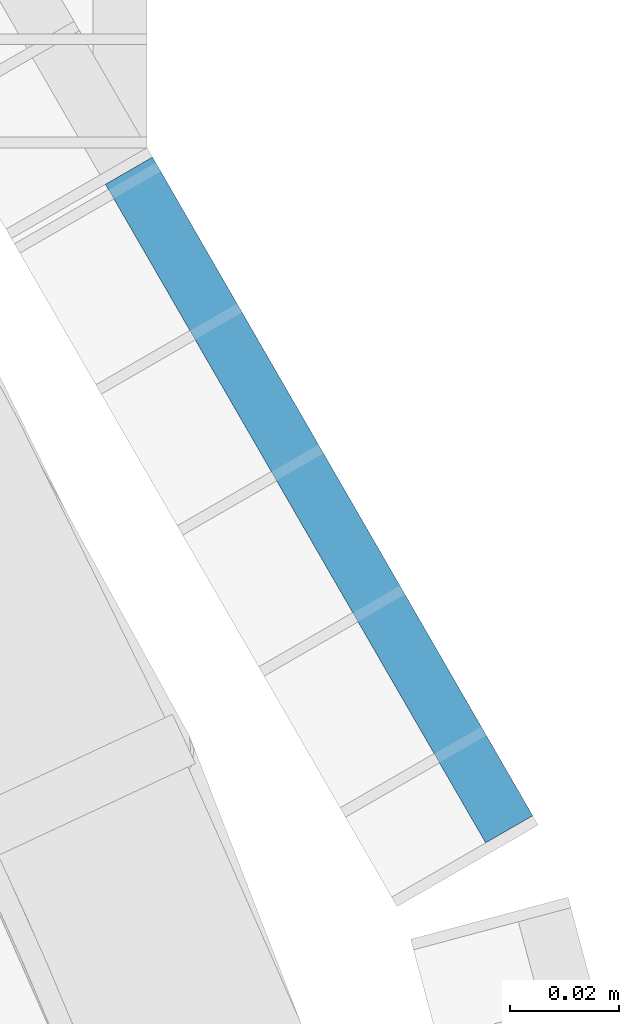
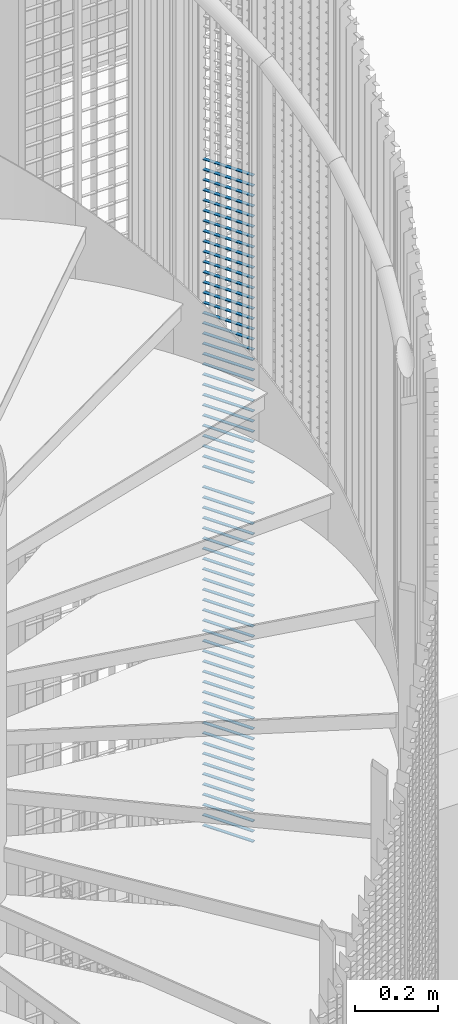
# One storey, part 263 of 1148: 65 beams, 1 element without a shape of its own.
"""IFC2X3 building model written with IfcOpenShell, lengths in millimetres."""

from ifc_helpers import new_model, si_unit, frame, origin_with_axes, origin_2d_with_axis, place, context, subcontext, project, spatial, rectangle, extrude, material, type_object, element, aggregate, save


model = new_model("IFC2X3")

# Units and contexts
model_context = context("Model", 3, precision=1e-05, world=origin_with_axes())
body_context = subcontext(model_context, "Body", "Model", "MODEL_VIEW")
ifc_project = project(units=[si_unit("LENGTHUNIT", "METRE", prefix="MILLI"), si_unit("AREAUNIT", "SQUARE_METRE"), si_unit("VOLUMEUNIT", "CUBIC_METRE"), si_unit("MASSUNIT", "GRAM", prefix="KILO"), si_unit("TIMEUNIT", "SECOND"), si_unit("PLANEANGLEUNIT", "RADIAN"), si_unit("SOLIDANGLEUNIT", "STERADIAN"), si_unit("THERMODYNAMICTEMPERATUREUNIT", "DEGREE_CELSIUS"), si_unit("LUMINOUSINTENSITYUNIT", "LUMEN")], contexts=[model_context])

# Site, building, storey
site_placement = place(None, origin_with_axes())
site = spatial("IfcSite", under=ifc_project, at=site_placement, Name="Undefined", CompositionType="ELEMENT")
building_placement = place(site_placement, origin_with_axes())
building = spatial("IfcBuilding", under=site, at=building_placement, Name="Undefined", CompositionType="ELEMENT")
storey_placement = place(building_placement, origin_with_axes())
storey = spatial("IfcBuildingStorey", under=building, at=storey_placement, Name="Undefined", CompositionType="ELEMENT", Elevation=0.0)

# Assembly, beams
assembly_placement = place(storey_placement, origin_with_axes())
assembly = element("IfcElementAssembly", 1, at=assembly_placement, inside=storey, Name="BORDURE", AssemblyPlace="NOTDEFINED", PredefinedType="NOTDEFINED")
ifc_material = material(Name="STEEL/S235JR")
beam_type = type_object("IfcBeamType", Name="PL2*10", PredefinedType="NOTDEFINED")
beam_1_placement = place(assembly_placement, frame((1033.29994283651, 437.231999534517, 17040.0), z_axis=(0.866030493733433, 0.499991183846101, 0.0), x_axis=(-0.499991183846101, 0.866030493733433, 0.0)))
beam_1 = element("IfcBeam", 2, at=beam_1_placement, type_object=beam_type, material=ifc_material, Name="ENTRETOISE", context=body_context, shape_type="SweptSolid", body=[
    extrude(rectangle(XDim=2.0, YDim=10.0, at=origin_2d_with_axis()), frame((140.102470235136, 0.0, 0.0), z_axis=(-1.0, 0.0, 0.0), x_axis=(0.0, -1.0, 0.0)), (0.0, 0.0, 1.0), 140.1),
])
beam_2_placement = place(assembly_placement, frame((1033.29994283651, 437.231999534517, 17010.0), z_axis=(0.866030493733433, 0.499991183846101, 0.0), x_axis=(-0.499991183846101, 0.866030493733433, 0.0)))
beam_2 = element("IfcBeam", 3, at=beam_2_placement, type_object=beam_type, material=ifc_material, Name="ENTRETOISE", context=body_context, shape_type="SweptSolid", body=[
    extrude(rectangle(XDim=2.0, YDim=10.0, at=origin_2d_with_axis()), frame((140.102470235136, 0.0, 0.0), z_axis=(-1.0, 0.0, 0.0), x_axis=(0.0, -1.0, 0.0)), (0.0, 0.0, 1.0), 140.1),
])
beam_3_placement = place(assembly_placement, frame((1033.29994283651, 437.231999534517, 16980.0), z_axis=(0.866030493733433, 0.499991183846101, 0.0), x_axis=(-0.499991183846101, 0.866030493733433, 0.0)))
beam_3 = element("IfcBeam", 4, at=beam_3_placement, type_object=beam_type, material=ifc_material, Name="ENTRETOISE", context=body_context, shape_type="SweptSolid", body=[
    extrude(rectangle(XDim=2.0, YDim=10.0, at=origin_2d_with_axis()), frame((140.102470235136, 0.0, 0.0), z_axis=(-1.0, 0.0, 0.0), x_axis=(0.0, -1.0, 0.0)), (0.0, 0.0, 1.0), 140.1),
])
beam_4_placement = place(assembly_placement, frame((1033.29994283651, 437.231999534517, 16950.0), z_axis=(0.866030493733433, 0.499991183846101, 0.0), x_axis=(-0.499991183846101, 0.866030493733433, 0.0)))
beam_4 = element("IfcBeam", 5, at=beam_4_placement, type_object=beam_type, material=ifc_material, Name="ENTRETOISE", context=body_context, shape_type="SweptSolid", body=[
    extrude(rectangle(XDim=2.0, YDim=10.0, at=origin_2d_with_axis()), frame((140.102470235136, 0.0, 0.0), z_axis=(-1.0, 0.0, 0.0), x_axis=(0.0, -1.0, 0.0)), (0.0, 0.0, 1.0), 140.1),
])
beam_5_placement = place(assembly_placement, frame((1033.29994283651, 437.231999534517, 16920.0), z_axis=(0.866030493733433, 0.499991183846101, 0.0), x_axis=(-0.499991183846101, 0.866030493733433, 0.0)))
beam_5 = element("IfcBeam", 6, at=beam_5_placement, type_object=beam_type, material=ifc_material, Name="ENTRETOISE", context=body_context, shape_type="SweptSolid", body=[
    extrude(rectangle(XDim=2.0, YDim=10.0, at=origin_2d_with_axis()), frame((140.102470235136, 0.0, 0.0), z_axis=(-1.0, 0.0, 0.0), x_axis=(0.0, -1.0, 0.0)), (0.0, 0.0, 1.0), 140.1),
])
beam_6_placement = place(assembly_placement, frame((1033.29994283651, 437.231999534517, 16890.0), z_axis=(0.866030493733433, 0.499991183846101, 0.0), x_axis=(-0.499991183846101, 0.866030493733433, 0.0)))
beam_6 = element("IfcBeam", 7, at=beam_6_placement, type_object=beam_type, material=ifc_material, Name="ENTRETOISE", context=body_context, shape_type="SweptSolid", body=[
    extrude(rectangle(XDim=2.0, YDim=10.0, at=origin_2d_with_axis()), frame((140.102470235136, 0.0, 0.0), z_axis=(-1.0, 0.0, 0.0), x_axis=(0.0, -1.0, 0.0)), (0.0, 0.0, 1.0), 140.1),
])
beam_7_placement = place(assembly_placement, frame((1033.29994283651, 437.231999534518, 16860.0), z_axis=(0.866030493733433, 0.499991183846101, 0.0), x_axis=(-0.499991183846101, 0.866030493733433, 0.0)))
beam_7 = element("IfcBeam", 8, at=beam_7_placement, type_object=beam_type, material=ifc_material, Name="ENTRETOISE", context=body_context, shape_type="SweptSolid", body=[
    extrude(rectangle(XDim=2.0, YDim=10.0, at=origin_2d_with_axis()), frame((140.102470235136, 0.0, 0.0), z_axis=(-1.0, 0.0, 0.0), x_axis=(0.0, -1.0, 0.0)), (0.0, 0.0, 1.0), 140.1),
])
beam_8_placement = place(assembly_placement, frame((1033.29994283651, 437.231999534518, 16830.0), z_axis=(0.866030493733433, 0.499991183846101, 0.0), x_axis=(-0.499991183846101, 0.866030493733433, 0.0)))
beam_8 = element("IfcBeam", 9, at=beam_8_placement, type_object=beam_type, material=ifc_material, Name="ENTRETOISE", context=body_context, shape_type="SweptSolid", body=[
    extrude(rectangle(XDim=2.0, YDim=10.0, at=origin_2d_with_axis()), frame((140.102470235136, 0.0, 0.0), z_axis=(-1.0, 0.0, 0.0), x_axis=(0.0, -1.0, 0.0)), (0.0, 0.0, 1.0), 140.1),
])
beam_9_placement = place(assembly_placement, frame((1033.29994283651, 437.231999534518, 16800.0), z_axis=(0.866030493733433, 0.499991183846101, 0.0), x_axis=(-0.499991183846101, 0.866030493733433, 0.0)))
beam_9 = element("IfcBeam", 10, at=beam_9_placement, type_object=beam_type, material=ifc_material, Name="ENTRETOISE", context=body_context, shape_type="SweptSolid", body=[
    extrude(rectangle(XDim=2.0, YDim=10.0, at=origin_2d_with_axis()), frame((140.102470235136, 0.0, 0.0), z_axis=(-1.0, 0.0, 0.0), x_axis=(0.0, -1.0, 0.0)), (0.0, 0.0, 1.0), 140.1),
])
beam_10_placement = place(assembly_placement, frame((1033.29994283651, 437.231999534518, 16770.0), z_axis=(0.866030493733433, 0.499991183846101, 0.0), x_axis=(-0.499991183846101, 0.866030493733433, 0.0)))
beam_10 = element("IfcBeam", 11, at=beam_10_placement, type_object=beam_type, material=ifc_material, Name="ENTRETOISE", context=body_context, shape_type="SweptSolid", body=[
    extrude(rectangle(XDim=2.0, YDim=10.0, at=origin_2d_with_axis()), frame((140.102470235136, 0.0, 0.0), z_axis=(-1.0, 0.0, 0.0), x_axis=(0.0, -1.0, 0.0)), (0.0, 0.0, 1.0), 140.1),
])
beam_11_placement = place(assembly_placement, frame((1033.29994283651, 437.231999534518, 16740.0), z_axis=(0.866030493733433, 0.499991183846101, 0.0), x_axis=(-0.499991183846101, 0.866030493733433, 0.0)))
beam_11 = element("IfcBeam", 12, at=beam_11_placement, type_object=beam_type, material=ifc_material, Name="ENTRETOISE", context=body_context, shape_type="SweptSolid", body=[
    extrude(rectangle(XDim=2.0, YDim=10.0, at=origin_2d_with_axis()), frame((140.102470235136, 0.0, 0.0), z_axis=(-1.0, 0.0, 0.0), x_axis=(0.0, -1.0, 0.0)), (0.0, 0.0, 1.0), 140.1),
])
beam_12_placement = place(assembly_placement, frame((1033.29994283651, 437.231999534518, 16710.0), z_axis=(0.866030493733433, 0.499991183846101, 0.0), x_axis=(-0.499991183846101, 0.866030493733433, 0.0)))
beam_12 = element("IfcBeam", 13, at=beam_12_placement, type_object=beam_type, material=ifc_material, Name="ENTRETOISE", context=body_context, shape_type="SweptSolid", body=[
    extrude(rectangle(XDim=2.0, YDim=10.0, at=origin_2d_with_axis()), frame((140.102470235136, 0.0, 0.0), z_axis=(-1.0, 0.0, 0.0), x_axis=(0.0, -1.0, 0.0)), (0.0, 0.0, 1.0), 140.1),
])
beam_13_placement = place(assembly_placement, frame((1033.29994283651, 437.231999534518, 16680.0), z_axis=(0.866030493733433, 0.499991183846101, 0.0), x_axis=(-0.499991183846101, 0.866030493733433, 0.0)))
beam_13 = element("IfcBeam", 14, at=beam_13_placement, type_object=beam_type, material=ifc_material, Name="ENTRETOISE", context=body_context, shape_type="SweptSolid", body=[
    extrude(rectangle(XDim=2.0, YDim=10.0, at=origin_2d_with_axis()), frame((140.102470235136, 0.0, 0.0), z_axis=(-1.0, 0.0, 0.0), x_axis=(0.0, -1.0, 0.0)), (0.0, 0.0, 1.0), 140.1),
])
beam_14_placement = place(assembly_placement, frame((1033.29994283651, 437.231999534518, 16650.0), z_axis=(0.866030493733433, 0.499991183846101, 0.0), x_axis=(-0.499991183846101, 0.866030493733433, 0.0)))
beam_14 = element("IfcBeam", 15, at=beam_14_placement, type_object=beam_type, material=ifc_material, Name="ENTRETOISE", context=body_context, shape_type="SweptSolid", body=[
    extrude(rectangle(XDim=2.0, YDim=10.0, at=origin_2d_with_axis()), frame((140.102470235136, 0.0, 0.0), z_axis=(-1.0, 0.0, 0.0), x_axis=(0.0, -1.0, 0.0)), (0.0, 0.0, 1.0), 140.1),
])
beam_15_placement = place(assembly_placement, frame((1033.29994283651, 437.231999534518, 16620.0), z_axis=(0.866030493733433, 0.499991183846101, 0.0), x_axis=(-0.499991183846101, 0.866030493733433, 0.0)))
beam_15 = element("IfcBeam", 16, at=beam_15_placement, type_object=beam_type, material=ifc_material, Name="ENTRETOISE", context=body_context, shape_type="SweptSolid", body=[
    extrude(rectangle(XDim=2.0, YDim=10.0, at=origin_2d_with_axis()), frame((140.102470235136, 0.0, 0.0), z_axis=(-1.0, 0.0, 0.0), x_axis=(0.0, -1.0, 0.0)), (0.0, 0.0, 1.0), 140.1),
])
beam_16_placement = place(assembly_placement, frame((1033.29994283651, 437.231999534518, 16590.0), z_axis=(0.866030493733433, 0.499991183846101, 0.0), x_axis=(-0.499991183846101, 0.866030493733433, 0.0)))
beam_16 = element("IfcBeam", 17, at=beam_16_placement, type_object=beam_type, material=ifc_material, Name="ENTRETOISE", context=body_context, shape_type="SweptSolid", body=[
    extrude(rectangle(XDim=2.0, YDim=10.0, at=origin_2d_with_axis()), frame((140.102470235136, 0.0, 0.0), z_axis=(-1.0, 0.0, 0.0), x_axis=(0.0, -1.0, 0.0)), (0.0, 0.0, 1.0), 140.1),
])
beam_17_placement = place(assembly_placement, frame((1033.29994283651, 437.231999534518, 16560.0), z_axis=(0.866030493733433, 0.499991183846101, 0.0), x_axis=(-0.499991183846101, 0.866030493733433, 0.0)))
beam_17 = element("IfcBeam", 18, at=beam_17_placement, type_object=beam_type, material=ifc_material, Name="ENTRETOISE", context=body_context, shape_type="SweptSolid", body=[
    extrude(rectangle(XDim=2.0, YDim=10.0, at=origin_2d_with_axis()), frame((140.102470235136, 0.0, 0.0), z_axis=(-1.0, 0.0, 0.0), x_axis=(0.0, -1.0, 0.0)), (0.0, 0.0, 1.0), 140.1),
])
beam_18_placement = place(assembly_placement, frame((1033.29994283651, 437.231999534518, 16530.0), z_axis=(0.866030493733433, 0.499991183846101, 0.0), x_axis=(-0.499991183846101, 0.866030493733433, 0.0)))
beam_18 = element("IfcBeam", 19, at=beam_18_placement, type_object=beam_type, material=ifc_material, Name="ENTRETOISE", context=body_context, shape_type="SweptSolid", body=[
    extrude(rectangle(XDim=2.0, YDim=10.0, at=origin_2d_with_axis()), frame((140.102470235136, 0.0, 0.0), z_axis=(-1.0, 0.0, 0.0), x_axis=(0.0, -1.0, 0.0)), (0.0, 0.0, 1.0), 140.1),
])
beam_19_placement = place(assembly_placement, frame((1033.29994283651, 437.231999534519, 16500.0), z_axis=(0.866030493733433, 0.499991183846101, 0.0), x_axis=(-0.499991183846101, 0.866030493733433, 0.0)))
beam_19 = element("IfcBeam", 20, at=beam_19_placement, type_object=beam_type, material=ifc_material, Name="ENTRETOISE", context=body_context, shape_type="SweptSolid", body=[
    extrude(rectangle(XDim=2.0, YDim=10.0, at=origin_2d_with_axis()), frame((140.102470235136, 0.0, 0.0), z_axis=(-1.0, 0.0, 0.0), x_axis=(0.0, -1.0, 0.0)), (0.0, 0.0, 1.0), 140.1),
])
beam_20_placement = place(assembly_placement, frame((1033.29994283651, 437.231999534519, 16470.0), z_axis=(0.866030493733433, 0.499991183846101, 0.0), x_axis=(-0.499991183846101, 0.866030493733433, 0.0)))
beam_20 = element("IfcBeam", 21, at=beam_20_placement, type_object=beam_type, material=ifc_material, Name="ENTRETOISE", context=body_context, shape_type="SweptSolid", body=[
    extrude(rectangle(XDim=2.0, YDim=10.0, at=origin_2d_with_axis()), frame((140.102470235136, 0.0, 0.0), z_axis=(-1.0, 0.0, 0.0), x_axis=(0.0, -1.0, 0.0)), (0.0, 0.0, 1.0), 140.1),
])
beam_21_placement = place(assembly_placement, frame((1033.29994283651, 437.231999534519, 16440.0), z_axis=(0.866030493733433, 0.499991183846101, 0.0), x_axis=(-0.499991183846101, 0.866030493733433, 0.0)))
beam_21 = element("IfcBeam", 22, at=beam_21_placement, type_object=beam_type, material=ifc_material, Name="ENTRETOISE", context=body_context, shape_type="SweptSolid", body=[
    extrude(rectangle(XDim=2.0, YDim=10.0, at=origin_2d_with_axis()), frame((140.102470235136, 0.0, 0.0), z_axis=(-1.0, 0.0, 0.0), x_axis=(0.0, -1.0, 0.0)), (0.0, 0.0, 1.0), 140.1),
])
beam_22_placement = place(assembly_placement, frame((1033.29994283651, 437.231999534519, 16410.0), z_axis=(0.866030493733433, 0.499991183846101, 0.0), x_axis=(-0.499991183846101, 0.866030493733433, 0.0)))
beam_22 = element("IfcBeam", 23, at=beam_22_placement, type_object=beam_type, material=ifc_material, Name="ENTRETOISE", context=body_context, shape_type="SweptSolid", body=[
    extrude(rectangle(XDim=2.0, YDim=10.0, at=origin_2d_with_axis()), frame((140.102470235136, 0.0, 0.0), z_axis=(-1.0, 0.0, 0.0), x_axis=(0.0, -1.0, 0.0)), (0.0, 0.0, 1.0), 140.1),
])
beam_23_placement = place(assembly_placement, frame((1033.29994283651, 437.231999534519, 16380.0), z_axis=(0.866030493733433, 0.499991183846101, 0.0), x_axis=(-0.499991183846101, 0.866030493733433, 0.0)))
beam_23 = element("IfcBeam", 24, at=beam_23_placement, type_object=beam_type, material=ifc_material, Name="ENTRETOISE", context=body_context, shape_type="SweptSolid", body=[
    extrude(rectangle(XDim=2.0, YDim=10.0, at=origin_2d_with_axis()), frame((140.102470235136, 0.0, 0.0), z_axis=(-1.0, 0.0, 0.0), x_axis=(0.0, -1.0, 0.0)), (0.0, 0.0, 1.0), 140.1),
])
beam_24_placement = place(assembly_placement, frame((1033.29994283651, 437.231999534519, 16350.0), z_axis=(0.866030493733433, 0.499991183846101, 0.0), x_axis=(-0.499991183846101, 0.866030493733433, 0.0)))
beam_24 = element("IfcBeam", 25, at=beam_24_placement, type_object=beam_type, material=ifc_material, Name="ENTRETOISE", context=body_context, shape_type="SweptSolid", body=[
    extrude(rectangle(XDim=2.0, YDim=10.0, at=origin_2d_with_axis()), frame((140.102470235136, 0.0, 0.0), z_axis=(-1.0, 0.0, 0.0), x_axis=(0.0, -1.0, 0.0)), (0.0, 0.0, 1.0), 140.1),
])
beam_25_placement = place(assembly_placement, frame((1033.29994283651, 437.231999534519, 16320.0), z_axis=(0.866030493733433, 0.499991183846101, 0.0), x_axis=(-0.499991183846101, 0.866030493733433, 0.0)))
beam_25 = element("IfcBeam", 26, at=beam_25_placement, type_object=beam_type, material=ifc_material, Name="ENTRETOISE", context=body_context, shape_type="SweptSolid", body=[
    extrude(rectangle(XDim=2.0, YDim=10.0, at=origin_2d_with_axis()), frame((140.102470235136, 0.0, 0.0), z_axis=(-1.0, 0.0, 0.0), x_axis=(0.0, -1.0, 0.0)), (0.0, 0.0, 1.0), 140.1),
])
beam_26_placement = place(assembly_placement, frame((1033.29994283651, 437.231999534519, 16290.0), z_axis=(0.866030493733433, 0.499991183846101, 0.0), x_axis=(-0.499991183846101, 0.866030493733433, 0.0)))
beam_26 = element("IfcBeam", 27, at=beam_26_placement, type_object=beam_type, material=ifc_material, Name="ENTRETOISE", context=body_context, shape_type="SweptSolid", body=[
    extrude(rectangle(XDim=2.0, YDim=10.0, at=origin_2d_with_axis()), frame((140.102470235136, 0.0, 0.0), z_axis=(-1.0, 0.0, 0.0), x_axis=(0.0, -1.0, 0.0)), (0.0, 0.0, 1.0), 140.1),
])
beam_27_placement = place(assembly_placement, frame((1033.29994283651, 437.231999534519, 16260.0), z_axis=(0.866030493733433, 0.499991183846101, 0.0), x_axis=(-0.499991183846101, 0.866030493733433, 0.0)))
beam_27 = element("IfcBeam", 28, at=beam_27_placement, type_object=beam_type, material=ifc_material, Name="ENTRETOISE", context=body_context, shape_type="SweptSolid", body=[
    extrude(rectangle(XDim=2.0, YDim=10.0, at=origin_2d_with_axis()), frame((140.102470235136, 0.0, 0.0), z_axis=(-1.0, 0.0, 0.0), x_axis=(0.0, -1.0, 0.0)), (0.0, 0.0, 1.0), 140.1),
])
beam_28_placement = place(assembly_placement, frame((1033.29994283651, 437.231999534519, 16230.0), z_axis=(0.866030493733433, 0.499991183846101, 0.0), x_axis=(-0.499991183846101, 0.866030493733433, 0.0)))
beam_28 = element("IfcBeam", 29, at=beam_28_placement, type_object=beam_type, material=ifc_material, Name="ENTRETOISE", context=body_context, shape_type="SweptSolid", body=[
    extrude(rectangle(XDim=2.0, YDim=10.0, at=origin_2d_with_axis()), frame((140.102470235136, 0.0, 0.0), z_axis=(-1.0, 0.0, 0.0), x_axis=(0.0, -1.0, 0.0)), (0.0, 0.0, 1.0), 140.1),
])
beam_29_placement = place(assembly_placement, frame((1033.29994283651, 437.231999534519, 16200.0), z_axis=(0.866030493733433, 0.499991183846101, 0.0), x_axis=(-0.499991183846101, 0.866030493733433, 0.0)))
beam_29 = element("IfcBeam", 30, at=beam_29_placement, type_object=beam_type, material=ifc_material, Name="ENTRETOISE", context=body_context, shape_type="SweptSolid", body=[
    extrude(rectangle(XDim=2.0, YDim=10.0, at=origin_2d_with_axis()), frame((140.102470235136, 0.0, 0.0), z_axis=(-1.0, 0.0, 0.0), x_axis=(0.0, -1.0, 0.0)), (0.0, 0.0, 1.0), 140.1),
])
beam_30_placement = place(assembly_placement, frame((1033.29994283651, 437.23199953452, 16170.0), z_axis=(0.866030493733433, 0.499991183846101, 0.0), x_axis=(-0.499991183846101, 0.866030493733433, 0.0)))
beam_30 = element("IfcBeam", 31, at=beam_30_placement, type_object=beam_type, material=ifc_material, Name="ENTRETOISE", context=body_context, shape_type="SweptSolid", body=[
    extrude(rectangle(XDim=2.0, YDim=10.0, at=origin_2d_with_axis()), frame((140.102470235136, 0.0, 0.0), z_axis=(-1.0, 0.0, 0.0), x_axis=(0.0, -1.0, 0.0)), (0.0, 0.0, 1.0), 140.1),
])
beam_31_placement = place(assembly_placement, frame((1033.29994283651, 437.23199953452, 16140.0), z_axis=(0.866030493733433, 0.499991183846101, 0.0), x_axis=(-0.499991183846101, 0.866030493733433, 0.0)))
beam_31 = element("IfcBeam", 32, at=beam_31_placement, type_object=beam_type, material=ifc_material, Name="ENTRETOISE", context=body_context, shape_type="SweptSolid", body=[
    extrude(rectangle(XDim=2.0, YDim=10.0, at=origin_2d_with_axis()), frame((140.102470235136, 0.0, 0.0), z_axis=(-1.0, 0.0, 0.0), x_axis=(0.0, -1.0, 0.0)), (0.0, 0.0, 1.0), 140.1),
])
beam_32_placement = place(assembly_placement, frame((1033.29994283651, 437.231999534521, 15720.0), z_axis=(0.866030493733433, 0.499991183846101, 0.0), x_axis=(-0.499991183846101, 0.866030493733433, 0.0)))
beam_32 = element("IfcBeam", 33, at=beam_32_placement, type_object=beam_type, material=ifc_material, Name="ENTRETOISE", context=body_context, shape_type="SweptSolid", body=[
    extrude(rectangle(XDim=2.0, YDim=10.0, at=origin_2d_with_axis()), frame((140.102470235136, 0.0, 0.0), z_axis=(-1.0, 0.0, 0.0), x_axis=(0.0, -1.0, 0.0)), (0.0, 0.0, 1.0), 140.1),
])
beam_33_placement = place(assembly_placement, frame((1033.29994283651, 437.231999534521, 15690.0), z_axis=(0.866030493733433, 0.499991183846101, 0.0), x_axis=(-0.499991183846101, 0.866030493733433, 0.0)))
beam_33 = element("IfcBeam", 34, at=beam_33_placement, type_object=beam_type, material=ifc_material, Name="ENTRETOISE", context=body_context, shape_type="SweptSolid", body=[
    extrude(rectangle(XDim=2.0, YDim=10.0, at=origin_2d_with_axis()), frame((140.102470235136, 0.0, 0.0), z_axis=(-1.0, 0.0, 0.0), x_axis=(0.0, -1.0, 0.0)), (0.0, 0.0, 1.0), 140.1),
])
beam_34_placement = place(assembly_placement, frame((1033.29994283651, 437.231999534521, 15750.0), z_axis=(0.866030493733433, 0.499991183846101, 0.0), x_axis=(-0.499991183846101, 0.866030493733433, 0.0)))
beam_34 = element("IfcBeam", 35, at=beam_34_placement, type_object=beam_type, material=ifc_material, Name="ENTRETOISE", context=body_context, shape_type="SweptSolid", body=[
    extrude(rectangle(XDim=2.0, YDim=10.0, at=origin_2d_with_axis()), frame((140.102470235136, 0.0, 0.0), z_axis=(-1.0, 0.0, 0.0), x_axis=(0.0, -1.0, 0.0)), (0.0, 0.0, 1.0), 140.1),
])
beam_35_placement = place(assembly_placement, frame((1033.29994283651, 437.231999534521, 15660.0), z_axis=(0.866030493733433, 0.499991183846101, 0.0), x_axis=(-0.499991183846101, 0.866030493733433, 0.0)))
beam_35 = element("IfcBeam", 36, at=beam_35_placement, type_object=beam_type, material=ifc_material, Name="ENTRETOISE", context=body_context, shape_type="SweptSolid", body=[
    extrude(rectangle(XDim=2.0, YDim=10.0, at=origin_2d_with_axis()), frame((140.102470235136, 0.0, 0.0), z_axis=(-1.0, 0.0, 0.0), x_axis=(0.0, -1.0, 0.0)), (0.0, 0.0, 1.0), 140.1),
])
beam_36_placement = place(assembly_placement, frame((1033.29994283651, 437.231999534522, 15630.0), z_axis=(0.866030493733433, 0.499991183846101, 0.0), x_axis=(-0.499991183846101, 0.866030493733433, 0.0)))
beam_36 = element("IfcBeam", 37, at=beam_36_placement, type_object=beam_type, material=ifc_material, Name="ENTRETOISE", context=body_context, shape_type="SweptSolid", body=[
    extrude(rectangle(XDim=2.0, YDim=10.0, at=origin_2d_with_axis()), frame((140.102470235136, 0.0, 0.0), z_axis=(-1.0, 0.0, 0.0), x_axis=(0.0, -1.0, 0.0)), (0.0, 0.0, 1.0), 140.1),
])
beam_37_placement = place(assembly_placement, frame((1033.29994283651, 437.231999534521, 15780.0), z_axis=(0.866030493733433, 0.499991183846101, 0.0), x_axis=(-0.499991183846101, 0.866030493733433, 0.0)))
beam_37 = element("IfcBeam", 38, at=beam_37_placement, type_object=beam_type, material=ifc_material, Name="ENTRETOISE", context=body_context, shape_type="SweptSolid", body=[
    extrude(rectangle(XDim=2.0, YDim=10.0, at=origin_2d_with_axis()), frame((140.102470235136, 0.0, 0.0), z_axis=(-1.0, 0.0, 0.0), x_axis=(0.0, -1.0, 0.0)), (0.0, 0.0, 1.0), 140.1),
])
beam_38_placement = place(assembly_placement, frame((1033.29994283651, 437.231999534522, 15600.0), z_axis=(0.866030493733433, 0.499991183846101, 0.0), x_axis=(-0.499991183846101, 0.866030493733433, 0.0)))
beam_38 = element("IfcBeam", 39, at=beam_38_placement, type_object=beam_type, material=ifc_material, Name="ENTRETOISE", context=body_context, shape_type="SweptSolid", body=[
    extrude(rectangle(XDim=2.0, YDim=10.0, at=origin_2d_with_axis()), frame((140.102470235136, 0.0, 0.0), z_axis=(-1.0, 0.0, 0.0), x_axis=(0.0, -1.0, 0.0)), (0.0, 0.0, 1.0), 140.1),
])
beam_39_placement = place(assembly_placement, frame((1033.29994283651, 437.231999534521, 15810.0), z_axis=(0.866030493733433, 0.499991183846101, 0.0), x_axis=(-0.499991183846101, 0.866030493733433, 0.0)))
beam_39 = element("IfcBeam", 40, at=beam_39_placement, type_object=beam_type, material=ifc_material, Name="ENTRETOISE", context=body_context, shape_type="SweptSolid", body=[
    extrude(rectangle(XDim=2.0, YDim=10.0, at=origin_2d_with_axis()), frame((140.102470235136, 0.0, 0.0), z_axis=(-1.0, 0.0, 0.0), x_axis=(0.0, -1.0, 0.0)), (0.0, 0.0, 1.0), 140.1),
])
beam_40_placement = place(assembly_placement, frame((1033.29994283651, 437.231999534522, 15570.0), z_axis=(0.866030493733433, 0.499991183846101, 0.0), x_axis=(-0.499991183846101, 0.866030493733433, 0.0)))
beam_40 = element("IfcBeam", 41, at=beam_40_placement, type_object=beam_type, material=ifc_material, Name="ENTRETOISE", context=body_context, shape_type="SweptSolid", body=[
    extrude(rectangle(XDim=2.0, YDim=10.0, at=origin_2d_with_axis()), frame((140.102470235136, 0.0, 0.0), z_axis=(-1.0, 0.0, 0.0), x_axis=(0.0, -1.0, 0.0)), (0.0, 0.0, 1.0), 140.1),
])
beam_41_placement = place(assembly_placement, frame((1033.29994283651, 437.231999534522, 15540.0), z_axis=(0.866030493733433, 0.499991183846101, 0.0), x_axis=(-0.499991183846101, 0.866030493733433, 0.0)))
beam_41 = element("IfcBeam", 42, at=beam_41_placement, type_object=beam_type, material=ifc_material, Name="ENTRETOISE", context=body_context, shape_type="SweptSolid", body=[
    extrude(rectangle(XDim=2.0, YDim=10.0, at=origin_2d_with_axis()), frame((140.102470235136, 0.0, 0.0), z_axis=(-1.0, 0.0, 0.0), x_axis=(0.0, -1.0, 0.0)), (0.0, 0.0, 1.0), 140.1),
])
beam_42_placement = place(assembly_placement, frame((1033.29994283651, 437.231999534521, 15840.0), z_axis=(0.866030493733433, 0.499991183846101, 0.0), x_axis=(-0.499991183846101, 0.866030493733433, 0.0)))
beam_42 = element("IfcBeam", 43, at=beam_42_placement, type_object=beam_type, material=ifc_material, Name="ENTRETOISE", context=body_context, shape_type="SweptSolid", body=[
    extrude(rectangle(XDim=2.0, YDim=10.0, at=origin_2d_with_axis()), frame((140.102470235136, 0.0, 0.0), z_axis=(-1.0, 0.0, 0.0), x_axis=(0.0, -1.0, 0.0)), (0.0, 0.0, 1.0), 140.1),
])
beam_43_placement = place(assembly_placement, frame((1033.29994283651, 437.231999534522, 15510.0), z_axis=(0.866030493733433, 0.499991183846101, 0.0), x_axis=(-0.499991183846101, 0.866030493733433, 0.0)))
beam_43 = element("IfcBeam", 44, at=beam_43_placement, type_object=beam_type, material=ifc_material, Name="ENTRETOISE", context=body_context, shape_type="SweptSolid", body=[
    extrude(rectangle(XDim=2.0, YDim=10.0, at=origin_2d_with_axis()), frame((140.102470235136, 0.0, 0.0), z_axis=(-1.0, 0.0, 0.0), x_axis=(0.0, -1.0, 0.0)), (0.0, 0.0, 1.0), 140.1),
])
beam_44_placement = place(assembly_placement, frame((1033.29994283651, 437.231999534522, 15480.0), z_axis=(0.866030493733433, 0.499991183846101, 0.0), x_axis=(-0.499991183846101, 0.866030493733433, 0.0)))
beam_44 = element("IfcBeam", 45, at=beam_44_placement, type_object=beam_type, material=ifc_material, Name="ENTRETOISE", context=body_context, shape_type="SweptSolid", body=[
    extrude(rectangle(XDim=2.0, YDim=10.0, at=origin_2d_with_axis()), frame((140.102470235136, 0.0, 0.0), z_axis=(-1.0, 0.0, 0.0), x_axis=(0.0, -1.0, 0.0)), (0.0, 0.0, 1.0), 140.1),
])
beam_45_placement = place(assembly_placement, frame((1033.29994283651, 437.231999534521, 15870.0), z_axis=(0.866030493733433, 0.499991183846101, 0.0), x_axis=(-0.499991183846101, 0.866030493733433, 0.0)))
beam_45 = element("IfcBeam", 46, at=beam_45_placement, type_object=beam_type, material=ifc_material, Name="ENTRETOISE", context=body_context, shape_type="SweptSolid", body=[
    extrude(rectangle(XDim=2.0, YDim=10.0, at=origin_2d_with_axis()), frame((140.102470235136, 0.0, 0.0), z_axis=(-1.0, 0.0, 0.0), x_axis=(0.0, -1.0, 0.0)), (0.0, 0.0, 1.0), 140.1),
])
beam_46_placement = place(assembly_placement, frame((1033.29994283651, 437.231999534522, 15450.0), z_axis=(0.866030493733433, 0.499991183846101, 0.0), x_axis=(-0.499991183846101, 0.866030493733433, 0.0)))
beam_46 = element("IfcBeam", 47, at=beam_46_placement, type_object=beam_type, material=ifc_material, Name="ENTRETOISE", context=body_context, shape_type="SweptSolid", body=[
    extrude(rectangle(XDim=2.0, YDim=10.0, at=origin_2d_with_axis()), frame((140.102470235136, 0.0, 0.0), z_axis=(-1.0, 0.0, 0.0), x_axis=(0.0, -1.0, 0.0)), (0.0, 0.0, 1.0), 140.1),
])
beam_47_placement = place(assembly_placement, frame((1033.29994283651, 437.231999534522, 15420.0), z_axis=(0.866030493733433, 0.499991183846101, 0.0), x_axis=(-0.499991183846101, 0.866030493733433, 0.0)))
beam_47 = element("IfcBeam", 48, at=beam_47_placement, type_object=beam_type, material=ifc_material, Name="ENTRETOISE", context=body_context, shape_type="SweptSolid", body=[
    extrude(rectangle(XDim=2.0, YDim=10.0, at=origin_2d_with_axis()), frame((140.102470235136, 0.0, 0.0), z_axis=(-1.0, 0.0, 0.0), x_axis=(0.0, -1.0, 0.0)), (0.0, 0.0, 1.0), 140.1),
])
beam_48_placement = place(assembly_placement, frame((1033.29994283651, 437.231999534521, 15900.0), z_axis=(0.866030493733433, 0.499991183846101, 0.0), x_axis=(-0.499991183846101, 0.866030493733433, 0.0)))
beam_48 = element("IfcBeam", 49, at=beam_48_placement, type_object=beam_type, material=ifc_material, Name="ENTRETOISE", context=body_context, shape_type="SweptSolid", body=[
    extrude(rectangle(XDim=2.0, YDim=10.0, at=origin_2d_with_axis()), frame((140.102470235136, 0.0, 0.0), z_axis=(-1.0, 0.0, 0.0), x_axis=(0.0, -1.0, 0.0)), (0.0, 0.0, 1.0), 140.1),
])
beam_49_placement = place(assembly_placement, frame((1033.29994283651, 437.231999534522, 15390.0), z_axis=(0.866030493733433, 0.499991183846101, 0.0), x_axis=(-0.499991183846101, 0.866030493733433, 0.0)))
beam_49 = element("IfcBeam", 50, at=beam_49_placement, type_object=beam_type, material=ifc_material, Name="ENTRETOISE", context=body_context, shape_type="SweptSolid", body=[
    extrude(rectangle(XDim=2.0, YDim=10.0, at=origin_2d_with_axis()), frame((140.102470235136, 0.0, 0.0), z_axis=(-1.0, 0.0, 0.0), x_axis=(0.0, -1.0, 0.0)), (0.0, 0.0, 1.0), 140.1),
])
beam_50_placement = place(assembly_placement, frame((1033.29994283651, 437.23199953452, 15930.0), z_axis=(0.866030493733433, 0.499991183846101, 0.0), x_axis=(-0.499991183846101, 0.866030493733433, 0.0)))
beam_50 = element("IfcBeam", 51, at=beam_50_placement, type_object=beam_type, material=ifc_material, Name="ENTRETOISE", context=body_context, shape_type="SweptSolid", body=[
    extrude(rectangle(XDim=2.0, YDim=10.0, at=origin_2d_with_axis()), frame((140.102470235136, 0.0, 0.0), z_axis=(-1.0, 0.0, 0.0), x_axis=(0.0, -1.0, 0.0)), (0.0, 0.0, 1.0), 140.1),
])
beam_51_placement = place(assembly_placement, frame((1033.29994283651, 437.231999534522, 15360.0), z_axis=(0.866030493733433, 0.499991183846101, 0.0), x_axis=(-0.499991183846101, 0.866030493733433, 0.0)))
beam_51 = element("IfcBeam", 52, at=beam_51_placement, type_object=beam_type, material=ifc_material, Name="ENTRETOISE", context=body_context, shape_type="SweptSolid", body=[
    extrude(rectangle(XDim=2.0, YDim=10.0, at=origin_2d_with_axis()), frame((140.102470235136, 0.0, 0.0), z_axis=(-1.0, 0.0, 0.0), x_axis=(0.0, -1.0, 0.0)), (0.0, 0.0, 1.0), 140.1),
])
beam_52_placement = place(assembly_placement, frame((1033.29994283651, 437.231999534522, 15330.0), z_axis=(0.866030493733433, 0.499991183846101, 0.0), x_axis=(-0.499991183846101, 0.866030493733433, 0.0)))
beam_52 = element("IfcBeam", 53, at=beam_52_placement, type_object=beam_type, material=ifc_material, Name="ENTRETOISE", context=body_context, shape_type="SweptSolid", body=[
    extrude(rectangle(XDim=2.0, YDim=10.0, at=origin_2d_with_axis()), frame((140.102470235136, 0.0, 0.0), z_axis=(-1.0, 0.0, 0.0), x_axis=(0.0, -1.0, 0.0)), (0.0, 0.0, 1.0), 140.1),
])
beam_53_placement = place(assembly_placement, frame((1033.29994283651, 437.23199953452, 15960.0), z_axis=(0.866030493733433, 0.499991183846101, 0.0), x_axis=(-0.499991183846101, 0.866030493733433, 0.0)))
beam_53 = element("IfcBeam", 54, at=beam_53_placement, type_object=beam_type, material=ifc_material, Name="ENTRETOISE", context=body_context, shape_type="SweptSolid", body=[
    extrude(rectangle(XDim=2.0, YDim=10.0, at=origin_2d_with_axis()), frame((140.102470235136, 0.0, 0.0), z_axis=(-1.0, 0.0, 0.0), x_axis=(0.0, -1.0, 0.0)), (0.0, 0.0, 1.0), 140.1),
])
beam_54_placement = place(assembly_placement, frame((1033.29994283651, 437.231999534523, 15300.0), z_axis=(0.866030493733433, 0.499991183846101, 0.0), x_axis=(-0.499991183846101, 0.866030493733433, 0.0)))
beam_54 = element("IfcBeam", 55, at=beam_54_placement, type_object=beam_type, material=ifc_material, Name="ENTRETOISE", context=body_context, shape_type="SweptSolid", body=[
    extrude(rectangle(XDim=2.0, YDim=10.0, at=origin_2d_with_axis()), frame((140.102470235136, 0.0, 0.0), z_axis=(-1.0, 0.0, 0.0), x_axis=(0.0, -1.0, 0.0)), (0.0, 0.0, 1.0), 140.1),
])
beam_55_placement = place(assembly_placement, frame((1033.29994283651, 437.231999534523, 15270.0), z_axis=(0.866030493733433, 0.499991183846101, 0.0), x_axis=(-0.499991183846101, 0.866030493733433, 0.0)))
beam_55 = element("IfcBeam", 56, at=beam_55_placement, type_object=beam_type, material=ifc_material, Name="ENTRETOISE", context=body_context, shape_type="SweptSolid", body=[
    extrude(rectangle(XDim=2.0, YDim=10.0, at=origin_2d_with_axis()), frame((140.102470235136, 0.0, 0.0), z_axis=(-1.0, 0.0, 0.0), x_axis=(0.0, -1.0, 0.0)), (0.0, 0.0, 1.0), 140.1),
])
beam_56_placement = place(assembly_placement, frame((1033.29994283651, 437.23199953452, 15990.0), z_axis=(0.866030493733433, 0.499991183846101, 0.0), x_axis=(-0.499991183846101, 0.866030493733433, 0.0)))
beam_56 = element("IfcBeam", 57, at=beam_56_placement, type_object=beam_type, material=ifc_material, Name="ENTRETOISE", context=body_context, shape_type="SweptSolid", body=[
    extrude(rectangle(XDim=2.0, YDim=10.0, at=origin_2d_with_axis()), frame((140.102470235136, 0.0, 0.0), z_axis=(-1.0, 0.0, 0.0), x_axis=(0.0, -1.0, 0.0)), (0.0, 0.0, 1.0), 140.1),
])
beam_57_placement = place(assembly_placement, frame((1033.29994283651, 437.231999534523, 15240.0), z_axis=(0.866030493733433, 0.499991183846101, 0.0), x_axis=(-0.499991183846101, 0.866030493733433, 0.0)))
beam_57 = element("IfcBeam", 58, at=beam_57_placement, type_object=beam_type, material=ifc_material, Name="ENTRETOISE", context=body_context, shape_type="SweptSolid", body=[
    extrude(rectangle(XDim=2.0, YDim=10.0, at=origin_2d_with_axis()), frame((140.102470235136, 0.0, 0.0), z_axis=(-1.0, 0.0, 0.0), x_axis=(0.0, -1.0, 0.0)), (0.0, 0.0, 1.0), 140.1),
])
beam_58_placement = place(assembly_placement, frame((1033.29994283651, 437.23199953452, 16020.0), z_axis=(0.866030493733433, 0.499991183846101, 0.0), x_axis=(-0.499991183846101, 0.866030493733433, 0.0)))
beam_58 = element("IfcBeam", 59, at=beam_58_placement, type_object=beam_type, material=ifc_material, Name="ENTRETOISE", context=body_context, shape_type="SweptSolid", body=[
    extrude(rectangle(XDim=2.0, YDim=10.0, at=origin_2d_with_axis()), frame((140.102470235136, 0.0, 0.0), z_axis=(-1.0, 0.0, 0.0), x_axis=(0.0, -1.0, 0.0)), (0.0, 0.0, 1.0), 140.1),
])
beam_59_placement = place(assembly_placement, frame((1033.29994283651, 437.231999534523, 15210.0), z_axis=(0.866030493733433, 0.499991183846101, 0.0), x_axis=(-0.499991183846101, 0.866030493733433, 0.0)))
beam_59 = element("IfcBeam", 60, at=beam_59_placement, type_object=beam_type, material=ifc_material, Name="ENTRETOISE", context=body_context, shape_type="SweptSolid", body=[
    extrude(rectangle(XDim=2.0, YDim=10.0, at=origin_2d_with_axis()), frame((140.102470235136, 0.0, 0.0), z_axis=(-1.0, 0.0, 0.0), x_axis=(0.0, -1.0, 0.0)), (0.0, 0.0, 1.0), 140.1),
])
beam_60_placement = place(assembly_placement, frame((1033.29994283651, 437.231999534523, 15180.0), z_axis=(0.866030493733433, 0.499991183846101, 0.0), x_axis=(-0.499991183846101, 0.866030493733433, 0.0)))
beam_60 = element("IfcBeam", 61, at=beam_60_placement, type_object=beam_type, material=ifc_material, Name="ENTRETOISE", context=body_context, shape_type="SweptSolid", body=[
    extrude(rectangle(XDim=2.0, YDim=10.0, at=origin_2d_with_axis()), frame((140.102470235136, 0.0, 0.0), z_axis=(-1.0, 0.0, 0.0), x_axis=(0.0, -1.0, 0.0)), (0.0, 0.0, 1.0), 140.1),
])
beam_61_placement = place(assembly_placement, frame((1033.29994283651, 437.23199953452, 16050.0), z_axis=(0.866030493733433, 0.499991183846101, 0.0), x_axis=(-0.499991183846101, 0.866030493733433, 0.0)))
beam_61 = element("IfcBeam", 62, at=beam_61_placement, type_object=beam_type, material=ifc_material, Name="ENTRETOISE", context=body_context, shape_type="SweptSolid", body=[
    extrude(rectangle(XDim=2.0, YDim=10.0, at=origin_2d_with_axis()), frame((140.102470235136, 0.0, 0.0), z_axis=(-1.0, 0.0, 0.0), x_axis=(0.0, -1.0, 0.0)), (0.0, 0.0, 1.0), 140.1),
])
beam_62_placement = place(assembly_placement, frame((1033.29994283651, 437.231999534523, 15150.0), z_axis=(0.866030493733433, 0.499991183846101, 0.0), x_axis=(-0.499991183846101, 0.866030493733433, 0.0)))
beam_62 = element("IfcBeam", 63, at=beam_62_placement, type_object=beam_type, material=ifc_material, Name="ENTRETOISE", context=body_context, shape_type="SweptSolid", body=[
    extrude(rectangle(XDim=2.0, YDim=10.0, at=origin_2d_with_axis()), frame((140.102470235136, 0.0, 0.0), z_axis=(-1.0, 0.0, 0.0), x_axis=(0.0, -1.0, 0.0)), (0.0, 0.0, 1.0), 140.1),
])
beam_63_placement = place(assembly_placement, frame((1033.29994283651, 437.231999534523, 15120.0), z_axis=(0.866030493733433, 0.499991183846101, 0.0), x_axis=(-0.499991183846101, 0.866030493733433, 0.0)))
beam_63 = element("IfcBeam", 64, at=beam_63_placement, type_object=beam_type, material=ifc_material, Name="ENTRETOISE", context=body_context, shape_type="SweptSolid", body=[
    extrude(rectangle(XDim=2.0, YDim=10.0, at=origin_2d_with_axis()), frame((140.102470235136, 0.0, 0.0), z_axis=(-1.0, 0.0, 0.0), x_axis=(0.0, -1.0, 0.0)), (0.0, 0.0, 1.0), 140.1),
])
beam_64_placement = place(assembly_placement, frame((1033.29994283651, 437.23199953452, 16080.0), z_axis=(0.866030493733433, 0.499991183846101, 0.0), x_axis=(-0.499991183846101, 0.866030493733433, 0.0)))
beam_64 = element("IfcBeam", 65, at=beam_64_placement, type_object=beam_type, material=ifc_material, Name="ENTRETOISE", context=body_context, shape_type="SweptSolid", body=[
    extrude(rectangle(XDim=2.0, YDim=10.0, at=origin_2d_with_axis()), frame((140.102470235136, 0.0, 0.0), z_axis=(-1.0, 0.0, 0.0), x_axis=(0.0, -1.0, 0.0)), (0.0, 0.0, 1.0), 140.1),
])
beam_65_placement = place(assembly_placement, frame((1033.29994283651, 437.231999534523, 15090.0), z_axis=(0.866030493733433, 0.499991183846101, 0.0), x_axis=(-0.499991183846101, 0.866030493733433, 0.0)))
beam_65 = element("IfcBeam", 66, at=beam_65_placement, type_object=beam_type, material=ifc_material, Name="ENTRETOISE", context=body_context, shape_type="SweptSolid", body=[
    extrude(rectangle(XDim=2.0, YDim=10.0, at=origin_2d_with_axis()), frame((140.102470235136, 0.0, 0.0), z_axis=(-1.0, 0.0, 0.0), x_axis=(0.0, -1.0, 0.0)), (0.0, 0.0, 1.0), 140.1),
])
aggregate(assembly, [beam_1, beam_2, beam_3, beam_4, beam_5, beam_6, beam_7, beam_8, beam_9, beam_10, beam_11, beam_12, beam_13, beam_14, beam_15, beam_16, beam_17, beam_18, beam_19, beam_20, beam_21, beam_22, beam_23, beam_24, beam_25, beam_26, beam_27, beam_28, beam_29, beam_30, beam_31, beam_32, beam_33, beam_34, beam_35, beam_36, beam_37, beam_38, beam_39, beam_40, beam_41, beam_42, beam_43, beam_44, beam_45, beam_46, beam_47, beam_48, beam_49, beam_50, beam_51, beam_52, beam_53, beam_54, beam_55, beam_56, beam_57, beam_58, beam_59, beam_60, beam_61, beam_62, beam_63, beam_64, beam_65])

save(model, "model.ifc")
